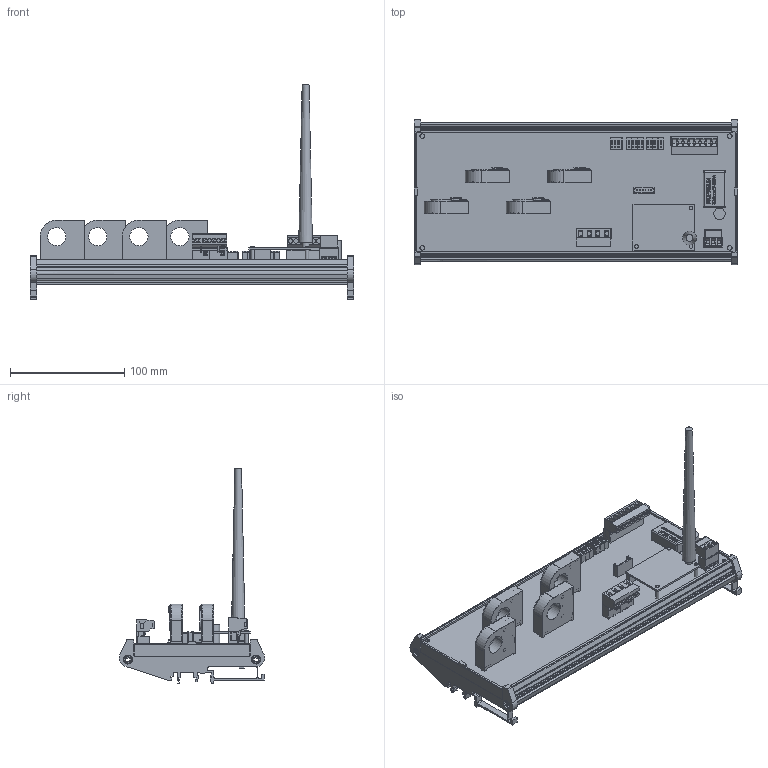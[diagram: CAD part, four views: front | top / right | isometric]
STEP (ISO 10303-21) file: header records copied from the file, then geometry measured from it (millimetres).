
FILE_DESCRIPTION(('FreeCAD Model'),'2;1');
FILE_NAME('C:/3D Files/Stringhe/ST0HS/ST0HS04x00 WR/ST0HS04x00 WR.step', '2022-06-01T16:36:38',('Author'),(''), 'Open CASCADE STEP processor 7.3','FreeCAD','Unknown');
FILE_SCHEMA(('AUTOMOTIVE_DESIGN { 1 0 10303 214 1 1 1 1 }'));
Length unit declared in the file: millimetre
Products named in the file (29): ST0HS04x00_WR; AmpModu_6P_M; DipSwitch4; WRB2403ZP-6WR003; ELNA_470_uF_35_V; Mstb_03P_F; Mstb_03Pc_M; SH04-7,62; PV02-7,62-V-Pa; PV02-7,62-V-Pb; Mstb_8P_F; Mstb_8Pc_M; Hall_Sensor_45_A_CH_1; Hall_Sensor_45_A_CH_2; Spacer-001; Spacer-002; Spacer-003; Strip_7x1; Antenna; E108_Module; Base_Antenna; Hall_Sensor_45_A_CH_3; Hall_Sensor_45_A_CH_4; Stampato_279,7_x_108; Profilo_284x128; DipSwitch005; DipSwitch006; DipSwitch007; DipSwitch008
Assembly tree (28 placements, depth 2):
  ST0HS04x00_WR
    AmpModu_6P_M
    DipSwitch4
    WRB2403ZP-6WR003
    ELNA_470_uF_35_V
    Mstb_03P_F
    Mstb_03Pc_M
    SH04-7,62
    PV02-7,62-V-Pa
    PV02-7,62-V-Pb
    Mstb_8P_F
    Mstb_8Pc_M
    Hall_Sensor_45_A_CH_1
    Hall_Sensor_45_A_CH_2
    Spacer-001
    Spacer-002
    Spacer-003
    Strip_7x1
    Antenna
    E108_Module
    Base_Antenna
    Hall_Sensor_45_A_CH_3
    Hall_Sensor_45_A_CH_4
    Stampato_279,7_x_108
    Profilo_284x128
    DipSwitch005
    DipSwitch006
    DipSwitch007
    DipSwitch008
Bounding box: 284 x 127.59 x 188.79 mm (x, y, z)
Volume: 218229.3 mm3; surface area: 276554.2 mm2
Topology: 36 solids, 57 shells, 3728 faces, 10648 edges, 8880 vertices
Faces by surface type: plane 2885, cylinder 529, bspline 185, torus 56, cone 42, sphere 28, extrusion 3
Full cylindrical faces by diameter (mm): 0.75 x52, 1 x10, 1.5 x8, 1.6 x7, 3.1 x3, 3.8 x4, 4 x19, 4.3 x2, 6 x1, 7.9 x4, 9.202 x2, 10 x1
Entity records: 283482 total; most frequent: CARTESIAN_POINT 58913, DIRECTION 35275, VECTOR 24490, LINE 24487, ORIENTED_EDGE 19700, PCURVE 19700, DEFINITIONAL_REPRESENTATION 19700, EDGE_CURVE 10056
